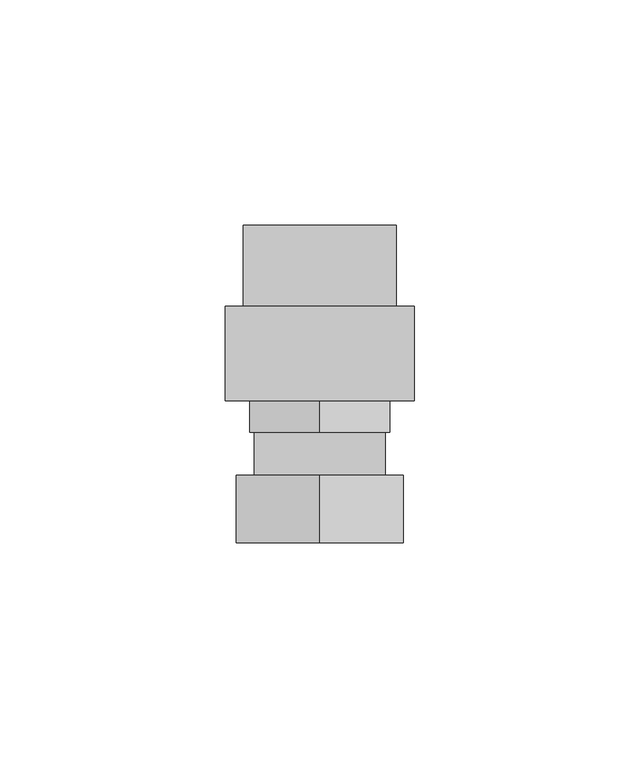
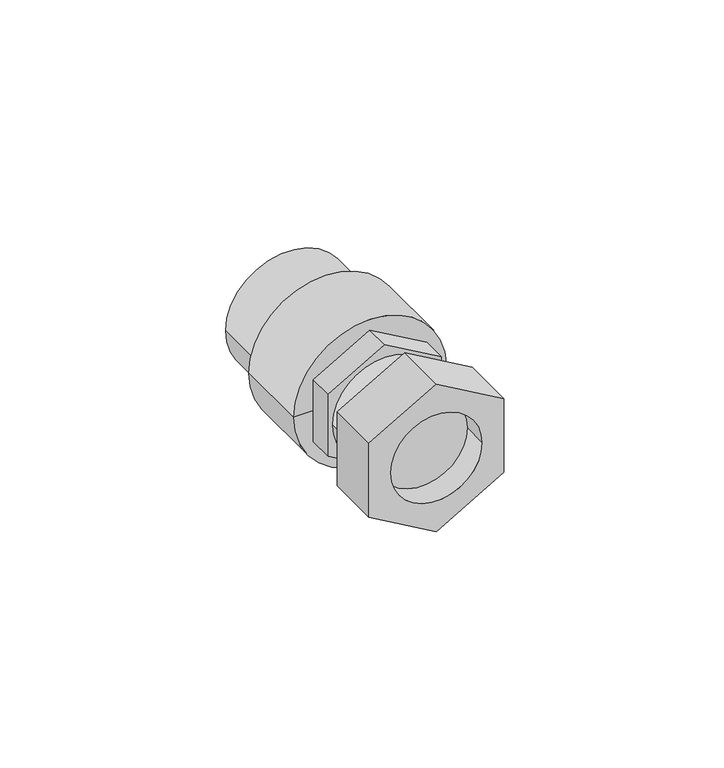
"""IFC4 building model written with IfcOpenShell, lengths in millimetres: pipe fitting geometry, NIRON RED termofusion roscado racor loco : Estándar."""

from ifc_helpers import new_model, si_unit, point, frame, origin, origin_2d, place, context, project, spatial, polyline, circle_curve, trimmed, segment, composite_curve, outline, extrude, source, transform, mapped, element, save
from ifc_brep_helpers import plane_surface, cylinder_surface, revolved_surface, advanced_brep


def pipe_fitting_fd800de6(model_context):
    return source(origin(), model_context, "Body", "SolidModel", [
        advanced_brep(
        [(18.5, 9.0, -10.68098), (18.5, 9.0, 10.68098), (0.0, 9.0, 21.36196), (-18.5, 9.0, 10.68098), (-18.5, 9.0, -10.68098), (0.0, 9.0, -21.36196), (12.5, 9.0, 0.0), (-12.5, 9.0, 0.0), (18.5, 24.0, -10.68098), (0.0, 24.0, -21.36196), (-18.5, 24.0, -10.68098), (-18.5, 24.0, 10.68098), (0.0, 24.0, 21.36196), (18.5, 24.0, 10.68098), (-12.5, 16.0570795, 0.0), (12.5, 16.0570795, 0.0)],
        [
            (0, 1),
            (1, 2),
            (2, 3),
            (3, 4),
            (4, 5),
            (5, 0),
            (6, 7, circle_curve(frame((0.0, 9.0, 0.0), z_axis=(0.0, 1.0, 0.0), x_axis=(1.0, 0.0, 0.0)), 12.5)),
            (7, 6, circle_curve(frame((0.0, 9.0, 0.0), z_axis=(0.0, 1.0, 0.0), x_axis=(1.0, 0.0, 0.0)), 12.5)),
            (8, 9),
            (9, 10),
            (10, 11),
            (11, 12),
            (12, 13),
            (13, 8),
            (0, 8),
            (13, 1),
            (12, 2),
            (11, 3),
            (10, 4),
            (9, 5),
            (14, 15, circle_curve(frame((0.0, 16.0570795, 0.0), z_axis=(0.0, -1.0, 0.0), x_axis=(1.0, 0.0, 0.0)), 12.5)),
            (15, 14, circle_curve(frame((0.0, 16.0570795, 0.0), z_axis=(0.0, -1.0, 0.0), x_axis=(1.0, 0.0, 0.0)), 12.5)),
            (14, 7),
            (6, 15),
        ],
        [
            plane_surface(frame((0.0, 9.0, 0.0), z_axis=(0.0, -1.0, 0.0), x_axis=(0.0, 0.0, 1.0))),
            plane_surface(frame((0.0, 24.0, 0.0), z_axis=(0.0, 1.0, 0.0), x_axis=(0.0, 0.0, 1.0))),
            plane_surface(frame((18.5, 9.0, -10.68098), z_axis=(1.0, 0.0, 0.0), x_axis=(0.0, 1.0, 0.0))),
            plane_surface(frame((18.5, 9.0, 10.68098), z_axis=(0.49999999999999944, 0.0, 0.866025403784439), x_axis=(0.0, 1.0, 0.0))),
            plane_surface(frame((0.0, 9.0, 21.36196), z_axis=(-0.4999999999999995, 0.0, 0.8660254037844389), x_axis=(0.0, 1.0, 0.0))),
            plane_surface(frame((-18.5, 9.0, 10.68098), z_axis=(-1.0, 0.0, 0.0), x_axis=(0.0, 1.0, 0.0))),
            plane_surface(frame((-18.5, 9.0, -10.68098), z_axis=(-0.4999999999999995, 0.0, -0.866025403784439), x_axis=(0.0, 1.0, 0.0))),
            plane_surface(frame((0.0, 9.0, -21.36196), z_axis=(0.4999999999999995, 0.0, -0.866025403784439), x_axis=(0.0, 1.0, 0.0))),
            plane_surface(frame((12.5, 16.0570795, 0.0), z_axis=(0.0, -1.0, 0.0), x_axis=(0.0, 0.0, -1.0))),
            revolved_surface(polyline([(12.5, 9.0, 0.0), (12.5, 16.0570795, 0.0)]), (0.0, 16.0570795, 0.0), (0.0, -1.0, 0.0)),
        ],
        [
            (0, [[1, 2, 3, 4, 5, 6], [7, 8]]),
            (1, [[9, 10, 11, 12, 13, 14]]),
            (2, [[-1, 15, -14, 16]]),
            (3, [[-2, -16, -13, 17]]),
            (4, [[-3, -17, -12, 18]]),
            (5, [[-4, -18, -11, 19]]),
            (6, [[-5, -19, -10, 20]]),
            (7, [[-6, -20, -9, -15]]),
            (8, [[21, 22]]),
            (9, [[-21, 23, -7, 24]]),
            (9, [[-22, -24, -8, -23]]),
        ],
    ),
        extrude(outline(polyline([(-8.9489292, 15.5), (8.9489292, 15.5), (17.8978583, 0.0), (8.9489292, -15.5), (-8.9489292, -15.5), (-17.8978583, 0.0), (-8.9489292, 15.5)])), frame((0.0, 33.5, 0.0), z_axis=(0.0, 1.0, 0.0), x_axis=(0.0, 0.0, 1.0)), (0.0, 0.0, 1.0), 7.0),
        extrude(outline(composite_curve([segment(trimmed(circle_curve(origin_2d(), 14.5), [point((0.0, -14.5))], [point((0.0, 14.5))], False, "CARTESIAN"), True, "CONTINUOUS"), segment(trimmed(circle_curve(origin_2d(), 14.5), [point((0.0, 14.5))], [point((0.0, -14.5))], False, "CARTESIAN"), True, "CONTINUOUS")], self_intersect=False)), frame((0.0, 24.0, 0.0), z_axis=(0.0, 1.0, 0.0), x_axis=(0.0, 0.0, 1.0)), (0.0, 0.0, 1.0), 9.5),
        advanced_brep(
        [(17.0, 79.5, 0.0), (-17.0, 79.5, 0.0), (0.0, 79.5, 0.0), (21.0, 40.5, 0.0), (-21.0, 40.5, 0.0), (-21.0, 61.5, 0.0), (21.0, 61.5, 0.0), (0.0, 40.5, 0.0), (17.0, 61.5, 0.0), (-17.0, 61.5, 0.0)],
        [
            (0, 1, circle_curve(frame((0.0, 79.5, 0.0), z_axis=(0.0, 1.0, 0.0), x_axis=(-1.0, 0.0, 0.0)), 17.0)),
            (1, 2),
            (2, 0),
            (1, 0, circle_curve(frame((0.0, 79.5, 0.0), z_axis=(0.0, 1.0, 0.0), x_axis=(-1.0, 0.0, 0.0)), 17.0)),
            (3, 4, circle_curve(frame((0.0, 40.5, 0.0), z_axis=(0.0, 1.0, 0.0), x_axis=(-1.0, 0.0, 0.0)), 21.0)),
            (4, 5),
            (5, 6, circle_curve(frame((0.0, 61.5, 0.0), z_axis=(0.0, -1.0, 0.0), x_axis=(-1.0, 0.0, 0.0)), 21.0)),
            (6, 3),
            (4, 3, circle_curve(frame((0.0, 40.5, 0.0), z_axis=(0.0, 1.0, 0.0), x_axis=(-1.0, 0.0, 0.0)), 21.0)),
            (6, 5, circle_curve(frame((0.0, 61.5, 0.0), z_axis=(0.0, -1.0, 0.0), x_axis=(-1.0, 0.0, 0.0)), 21.0)),
            (7, 4),
            (3, 7),
            (8, 9, circle_curve(frame((0.0, 61.5, 0.0), z_axis=(0.0, 1.0, 0.0), x_axis=(-1.0, 0.0, 0.0)), 17.0)),
            (9, 1),
            (0, 8),
            (9, 8, circle_curve(frame((0.0, 61.5, 0.0), z_axis=(0.0, 1.0, 0.0), x_axis=(-1.0, 0.0, 0.0)), 17.0)),
            (5, 9),
            (8, 6),
        ],
        [
            plane_surface(frame((0.0, 79.5, 0.0), z_axis=(0.0, 1.0, 0.0), x_axis=(-1.0, 0.0, 0.0))),
            cylinder_surface(frame((0.0, 89.5, 0.0), z_axis=(0.0, -1.0, 0.0), x_axis=(-1.0, 0.0, 0.0)), 21.0),
            plane_surface(frame((0.0, 40.5, 0.0), z_axis=(0.0, -1.0, 0.0), x_axis=(-1.0, 0.0, 0.0))),
            cylinder_surface(frame((0.0, 89.5, 0.0), z_axis=(0.0, -1.0, 0.0), x_axis=(-1.0, 0.0, 0.0)), 17.0),
            plane_surface(frame((0.0, 61.5, 0.0), z_axis=(0.0, 1.0, 0.0), x_axis=(-1.0, 0.0, 0.0))),
        ],
        [
            (0, [[1, 2, 3]]),
            (0, [[4, -3, -2]]),
            (1, [[5, 6, 7, 8]]),
            (1, [[9, -8, 10, -6]]),
            (2, [[11, -5, 12]]),
            (2, [[-12, -9, -11]]),
            (3, [[13, 14, -1, 15]]),
            (3, [[16, -15, -4, -14]]),
            (4, [[-7, 17, -13, 18]]),
            (4, [[-10, -18, -16, -17]]),
        ],
    ),
    ])


if __name__ == "__main__":
    model = new_model("IFC4")
    model_context = context("Model", 3, world=origin())
    ifc_project = project(units=[si_unit("LENGTHUNIT", "METRE", prefix="MILLI")], contexts=[model_context])
    site = spatial("IfcSite", under=ifc_project)
    building = spatial("IfcBuilding", under=site)
    placement = place(None, origin())
    pipe_fitting_shape = pipe_fitting_fd800de6(model_context)
    element("IfcPipeFitting", 1, ObjectType="NIRON RED termofusion roscado racor loco : Estándar", at=placement, inside=building, context=model_context, shape_type="MappedRepresentation", body=[
        mapped(pipe_fitting_shape, transform((0.0, 0.0, 0.0), x_axis=(1.0, 0.0, 0.0), y_axis=(0.0, 1.0, 0.0), z_axis=(0.0, 0.0, 1.0))),
    ])
    save(model, "model.ifc")
